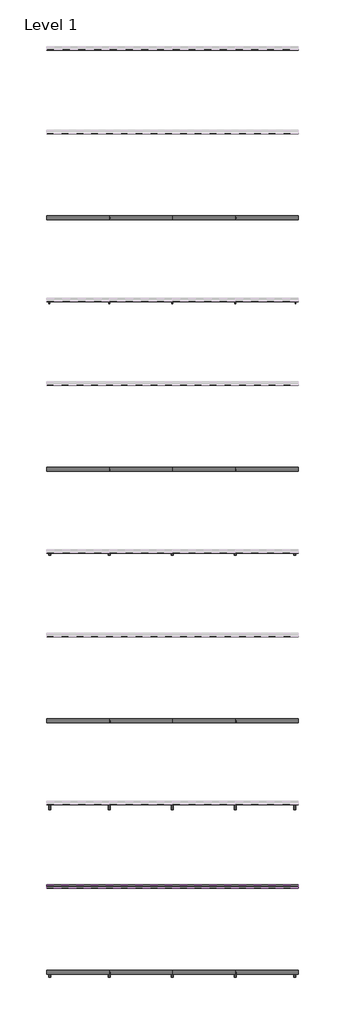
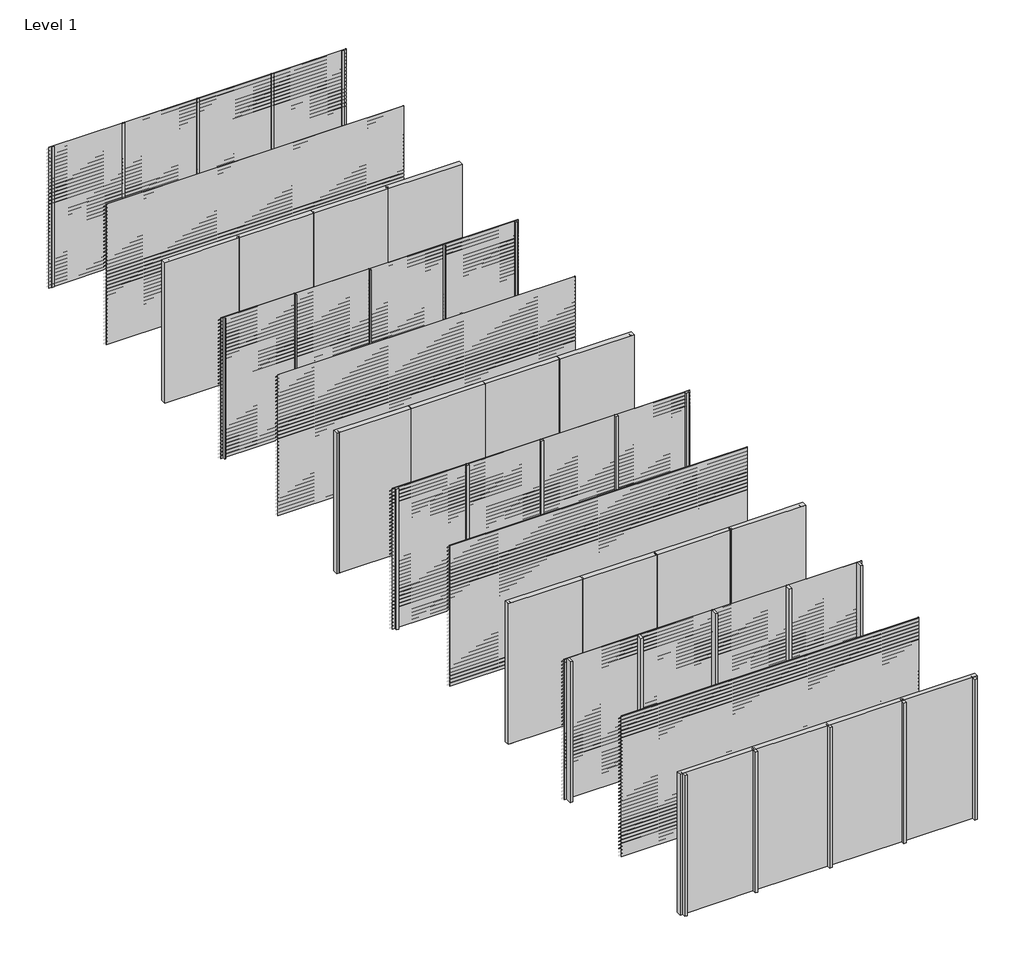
# One storey, part 1 of 9: 40 members, 38 proxies, 36 plates.
"""IFC4 building model written with IfcOpenShell, lengths in millimetres."""

from ifc_helpers import new_model, si_unit, frame, origin, origin_with_axes, place, context, project, spatial, polyline, outline, extrude, transform, mapped, element, save
from components import rectangular_mullion_bbbcbd30, rectangular_mullion_f8d4a220, rectangular_mullion_81aaf6fe, rectangular_mullion_6e08dc26, rectangular_mullion_75c52e10, rectangular_mullion_40295cf1, rectangular_mullion_7f158cb3, rectangular_mullion_66519e13, rectangular_mullion_5829b51c, rectangular_mullion_3b5b8a15, rectangular_mullion_81543344, rectangular_mullion_041a21c4, empty_system_panel_empty_ae16e1e1, empty_system_panel_empty_4cf993bc

model = new_model("IFC4")

# Units and contexts
model_context = context("Model", 3, world=origin())
ifc_project = project(units=[si_unit("LENGTHUNIT", "METRE", prefix="MILLI")], contexts=[model_context])

# Site, building, storey
site = spatial("IfcSite", under=ifc_project)
building = spatial("IfcBuilding", under=site)
storey = spatial("IfcBuildingStorey", under=building, Name="Level 1", Elevation=0.0)

# Proxies
placement = place(None, origin())
element("IfcBuildingElementProxy", 1, Name="Wall Sweeps", at=placement, inside=storey, context=model_context, shape_type="SweptSolid", body=[
    extrude(outline(polyline([(-19995.0, 3000.0), (-19995.0, 2987.7713645), (-19917.0, 2907.0), (-19917.0, 2898.0), (-19997.0, 2980.8424251), (-19997.0, 3000.0), (-19995.0, 3000.0)])), frame((0.0, 0.0, 0.0), z_axis=(1.0, 0.0, 0.0), x_axis=(0.0, 1.0, 0.0)), (0.0, 0.0, 1.0), 6000.0),
])
element("IfcBuildingElementProxy", 2, Name="Wall Sweeps", at=placement, inside=storey, context=model_context, shape_type="SweptSolid", body=[
    extrude(outline(polyline([(-19995.0, 2925.0), (-19995.0, 2912.7713645), (-19917.0, 2832.0), (-19917.0, 2823.0), (-19997.0, 2905.8424251), (-19997.0, 2925.0), (-19995.0, 2925.0)])), frame((0.0, 0.0, 0.0), z_axis=(1.0, 0.0, 0.0), x_axis=(0.0, 1.0, 0.0)), (0.0, 0.0, 1.0), 6000.0),
])
element("IfcBuildingElementProxy", 3, Name="Wall Sweeps", at=placement, inside=storey, context=model_context, shape_type="SweptSolid", body=[
    extrude(outline(polyline([(-19995.0, 2850.0), (-19995.0, 2837.7713645), (-19917.0, 2757.0), (-19917.0, 2748.0), (-19997.0, 2830.8424251), (-19997.0, 2850.0), (-19995.0, 2850.0)])), frame((0.0, 0.0, 0.0), z_axis=(1.0, 0.0, 0.0), x_axis=(0.0, 1.0, 0.0)), (0.0, 0.0, 1.0), 6000.0),
])
element("IfcBuildingElementProxy", 4, Name="Wall Sweeps", at=placement, inside=storey, context=model_context, shape_type="SweptSolid", body=[
    extrude(outline(polyline([(-19995.0, 2775.0), (-19995.0, 2762.7713645), (-19917.0, 2682.0), (-19917.0, 2673.0), (-19997.0, 2755.8424251), (-19997.0, 2775.0), (-19995.0, 2775.0)])), frame((0.0, 0.0, 0.0), z_axis=(1.0, 0.0, 0.0), x_axis=(0.0, 1.0, 0.0)), (0.0, 0.0, 1.0), 6000.0),
])
element("IfcBuildingElementProxy", 5, Name="Wall Sweeps", at=placement, inside=storey, context=model_context, shape_type="SweptSolid", body=[
    extrude(outline(polyline([(-19995.0, 2700.0), (-19995.0, 2687.7713645), (-19917.0, 2607.0), (-19917.0, 2598.0), (-19997.0, 2680.8424251), (-19997.0, 2700.0), (-19995.0, 2700.0)])), frame((0.0, 0.0, 0.0), z_axis=(1.0, 0.0, 0.0), x_axis=(0.0, 1.0, 0.0)), (0.0, 0.0, 1.0), 6000.0),
])
element("IfcBuildingElementProxy", 6, Name="Wall Sweeps", at=placement, inside=storey, context=model_context, shape_type="SweptSolid", body=[
    extrude(outline(polyline([(-19995.0, 2625.0), (-19995.0, 2612.7713645), (-19917.0, 2532.0), (-19917.0, 2523.0), (-19997.0, 2605.8424251), (-19997.0, 2625.0), (-19995.0, 2625.0)])), frame((0.0, 0.0, 0.0), z_axis=(1.0, 0.0, 0.0), x_axis=(0.0, 1.0, 0.0)), (0.0, 0.0, 1.0), 6000.0),
])
element("IfcBuildingElementProxy", 7, Name="Wall Sweeps", at=placement, inside=storey, context=model_context, shape_type="SweptSolid", body=[
    extrude(outline(polyline([(-19995.0, 2550.0), (-19995.0, 2537.7713645), (-19917.0, 2457.0), (-19917.0, 2448.0), (-19997.0, 2530.8424251), (-19997.0, 2550.0), (-19995.0, 2550.0)])), frame((0.0, 0.0, 0.0), z_axis=(1.0, 0.0, 0.0), x_axis=(0.0, 1.0, 0.0)), (0.0, 0.0, 1.0), 6000.0),
])
element("IfcBuildingElementProxy", 8, Name="Wall Sweeps", at=placement, inside=storey, context=model_context, shape_type="SweptSolid", body=[
    extrude(outline(polyline([(-19995.0, 2475.0), (-19995.0, 2462.7713645), (-19917.0, 2382.0), (-19917.0, 2373.0), (-19997.0, 2455.8424251), (-19997.0, 2475.0), (-19995.0, 2475.0)])), frame((0.0, 0.0, 0.0), z_axis=(1.0, 0.0, 0.0), x_axis=(0.0, 1.0, 0.0)), (0.0, 0.0, 1.0), 6000.0),
])
element("IfcBuildingElementProxy", 9, Name="Wall Sweeps", at=placement, inside=storey, context=model_context, shape_type="SweptSolid", body=[
    extrude(outline(polyline([(-19995.0, 2400.0), (-19995.0, 2387.7713645), (-19917.0, 2307.0), (-19917.0, 2298.0), (-19997.0, 2380.8424251), (-19997.0, 2400.0), (-19995.0, 2400.0)])), frame((0.0, 0.0, 0.0), z_axis=(1.0, 0.0, 0.0), x_axis=(0.0, 1.0, 0.0)), (0.0, 0.0, 1.0), 6000.0),
])
element("IfcBuildingElementProxy", 10, Name="Wall Sweeps", at=placement, inside=storey, context=model_context, shape_type="SweptSolid", body=[
    extrude(outline(polyline([(-19995.0, 2325.0), (-19995.0, 2312.7713645), (-19917.0, 2232.0), (-19917.0, 2223.0), (-19997.0, 2305.8424251), (-19997.0, 2325.0), (-19995.0, 2325.0)])), frame((0.0, 0.0, 0.0), z_axis=(1.0, 0.0, 0.0), x_axis=(0.0, 1.0, 0.0)), (0.0, 0.0, 1.0), 6000.0),
])
element("IfcBuildingElementProxy", 11, Name="Wall Sweeps", at=placement, inside=storey, context=model_context, shape_type="SweptSolid", body=[
    extrude(outline(polyline([(-19995.0, 2250.0), (-19995.0, 2237.7713645), (-19917.0, 2157.0), (-19917.0, 2148.0), (-19997.0, 2230.8424251), (-19997.0, 2250.0), (-19995.0, 2250.0)])), frame((0.0, 0.0, 0.0), z_axis=(1.0, 0.0, 0.0), x_axis=(0.0, 1.0, 0.0)), (0.0, 0.0, 1.0), 6000.0),
])
element("IfcBuildingElementProxy", 12, Name="Wall Sweeps", at=placement, inside=storey, context=model_context, shape_type="SweptSolid", body=[
    extrude(outline(polyline([(-19995.0, 2175.0), (-19995.0, 2162.7713645), (-19917.0, 2082.0), (-19917.0, 2073.0), (-19997.0, 2155.8424251), (-19997.0, 2175.0), (-19995.0, 2175.0)])), frame((0.0, 0.0, 0.0), z_axis=(1.0, 0.0, 0.0), x_axis=(0.0, 1.0, 0.0)), (0.0, 0.0, 1.0), 6000.0),
])
element("IfcBuildingElementProxy", 13, Name="Wall Sweeps", at=placement, inside=storey, context=model_context, shape_type="SweptSolid", body=[
    extrude(outline(polyline([(-19995.0, 2100.0), (-19995.0, 2087.7713645), (-19917.0, 2007.0), (-19917.0, 1998.0), (-19997.0, 2080.8424251), (-19997.0, 2100.0), (-19995.0, 2100.0)])), frame((0.0, 0.0, 0.0), z_axis=(1.0, 0.0, 0.0), x_axis=(0.0, 1.0, 0.0)), (0.0, 0.0, 1.0), 6000.0),
])
element("IfcBuildingElementProxy", 14, Name="Wall Sweeps", at=placement, inside=storey, context=model_context, shape_type="SweptSolid", body=[
    extrude(outline(polyline([(-19995.0, 2025.0), (-19995.0, 2012.7713645), (-19917.0, 1932.0), (-19917.0, 1923.0), (-19997.0, 2005.8424251), (-19997.0, 2025.0), (-19995.0, 2025.0)])), frame((0.0, 0.0, 0.0), z_axis=(1.0, 0.0, 0.0), x_axis=(0.0, 1.0, 0.0)), (0.0, 0.0, 1.0), 6000.0),
])
element("IfcBuildingElementProxy", 15, Name="Wall Sweeps", at=placement, inside=storey, context=model_context, shape_type="SweptSolid", body=[
    extrude(outline(polyline([(-19995.0, 1950.0), (-19995.0, 1937.7713645), (-19917.0, 1857.0), (-19917.0, 1848.0), (-19997.0, 1930.8424251), (-19997.0, 1950.0), (-19995.0, 1950.0)])), frame((0.0, 0.0, 0.0), z_axis=(1.0, 0.0, 0.0), x_axis=(0.0, 1.0, 0.0)), (0.0, 0.0, 1.0), 6000.0),
])
element("IfcBuildingElementProxy", 16, Name="Wall Sweeps", at=placement, inside=storey, context=model_context, shape_type="SweptSolid", body=[
    extrude(outline(polyline([(-19995.0, 1875.0), (-19995.0, 1862.7713645), (-19917.0, 1782.0), (-19917.0, 1773.0), (-19997.0, 1855.8424251), (-19997.0, 1875.0), (-19995.0, 1875.0)])), frame((0.0, 0.0, 0.0), z_axis=(1.0, 0.0, 0.0), x_axis=(0.0, 1.0, 0.0)), (0.0, 0.0, 1.0), 6000.0),
])
element("IfcBuildingElementProxy", 17, Name="Wall Sweeps", at=placement, inside=storey, context=model_context, shape_type="SweptSolid", body=[
    extrude(outline(polyline([(-19995.0, 1800.0), (-19995.0, 1787.7713645), (-19917.0, 1707.0), (-19917.0, 1698.0), (-19997.0, 1780.8424251), (-19997.0, 1800.0), (-19995.0, 1800.0)])), frame((0.0, 0.0, 0.0), z_axis=(1.0, 0.0, 0.0), x_axis=(0.0, 1.0, 0.0)), (0.0, 0.0, 1.0), 6000.0),
])
element("IfcBuildingElementProxy", 18, Name="Wall Sweeps", at=placement, inside=storey, context=model_context, shape_type="SweptSolid", body=[
    extrude(outline(polyline([(-19995.0, 1725.0), (-19995.0, 1712.7713645), (-19917.0, 1632.0), (-19917.0, 1623.0), (-19997.0, 1705.8424251), (-19997.0, 1725.0), (-19995.0, 1725.0)])), frame((0.0, 0.0, 0.0), z_axis=(1.0, 0.0, 0.0), x_axis=(0.0, 1.0, 0.0)), (0.0, 0.0, 1.0), 6000.0),
])
element("IfcBuildingElementProxy", 19, Name="Wall Sweeps", at=placement, inside=storey, context=model_context, shape_type="SweptSolid", body=[
    extrude(outline(polyline([(-19995.0, 1650.0), (-19995.0, 1637.7713645), (-19917.0, 1557.0), (-19917.0, 1548.0), (-19997.0, 1630.8424251), (-19997.0, 1650.0), (-19995.0, 1650.0)])), frame((0.0, 0.0, 0.0), z_axis=(1.0, 0.0, 0.0), x_axis=(0.0, 1.0, 0.0)), (0.0, 0.0, 1.0), 6000.0),
])
element("IfcBuildingElementProxy", 20, Name="Wall Sweeps", at=placement, inside=storey, context=model_context, shape_type="SweptSolid", body=[
    extrude(outline(polyline([(-19995.0, 1575.0), (-19995.0, 1562.7713645), (-19917.0, 1482.0), (-19917.0, 1473.0), (-19997.0, 1555.8424251), (-19997.0, 1575.0), (-19995.0, 1575.0)])), frame((0.0, 0.0, 0.0), z_axis=(1.0, 0.0, 0.0), x_axis=(0.0, 1.0, 0.0)), (0.0, 0.0, 1.0), 6000.0),
])
element("IfcBuildingElementProxy", 21, Name="Wall Sweeps", at=placement, inside=storey, context=model_context, shape_type="SweptSolid", body=[
    extrude(outline(polyline([(-19995.0, 1500.0), (-19995.0, 1487.7713645), (-19917.0, 1407.0), (-19917.0, 1398.0), (-19997.0, 1480.8424251), (-19997.0, 1500.0), (-19995.0, 1500.0)])), frame((0.0, 0.0, 0.0), z_axis=(1.0, 0.0, 0.0), x_axis=(0.0, 1.0, 0.0)), (0.0, 0.0, 1.0), 6000.0),
])
element("IfcBuildingElementProxy", 22, Name="Wall Sweeps", at=placement, inside=storey, context=model_context, shape_type="SweptSolid", body=[
    extrude(outline(polyline([(-19995.0, 1425.0), (-19995.0, 1412.7713645), (-19917.0, 1332.0), (-19917.0, 1323.0), (-19997.0, 1405.8424251), (-19997.0, 1425.0), (-19995.0, 1425.0)])), frame((0.0, 0.0, 0.0), z_axis=(1.0, 0.0, 0.0), x_axis=(0.0, 1.0, 0.0)), (0.0, 0.0, 1.0), 6000.0),
])
element("IfcBuildingElementProxy", 23, Name="Wall Sweeps", at=placement, inside=storey, context=model_context, shape_type="SweptSolid", body=[
    extrude(outline(polyline([(-19995.0, 1350.0), (-19995.0, 1337.7713645), (-19917.0, 1257.0), (-19917.0, 1248.0), (-19997.0, 1330.8424251), (-19997.0, 1350.0), (-19995.0, 1350.0)])), frame((0.0, 0.0, 0.0), z_axis=(1.0, 0.0, 0.0), x_axis=(0.0, 1.0, 0.0)), (0.0, 0.0, 1.0), 6000.0),
])
element("IfcBuildingElementProxy", 24, Name="Wall Sweeps", at=placement, inside=storey, context=model_context, shape_type="SweptSolid", body=[
    extrude(outline(polyline([(-19995.0, 1275.0), (-19995.0, 1262.7713645), (-19917.0, 1182.0), (-19917.0, 1173.0), (-19997.0, 1255.8424251), (-19997.0, 1275.0), (-19995.0, 1275.0)])), frame((0.0, 0.0, 0.0), z_axis=(1.0, 0.0, 0.0), x_axis=(0.0, 1.0, 0.0)), (0.0, 0.0, 1.0), 6000.0),
])
element("IfcBuildingElementProxy", 25, Name="Wall Sweeps", at=placement, inside=storey, context=model_context, shape_type="SweptSolid", body=[
    extrude(outline(polyline([(-19995.0, 1200.0), (-19995.0, 1187.7713645), (-19917.0, 1107.0), (-19917.0, 1098.0), (-19997.0, 1180.8424251), (-19997.0, 1200.0), (-19995.0, 1200.0)])), frame((0.0, 0.0, 0.0), z_axis=(1.0, 0.0, 0.0), x_axis=(0.0, 1.0, 0.0)), (0.0, 0.0, 1.0), 6000.0),
])
element("IfcBuildingElementProxy", 26, Name="Wall Sweeps", at=placement, inside=storey, context=model_context, shape_type="SweptSolid", body=[
    extrude(outline(polyline([(-19995.0, 1125.0), (-19995.0, 1112.7713645), (-19917.0, 1032.0), (-19917.0, 1023.0), (-19997.0, 1105.8424251), (-19997.0, 1125.0), (-19995.0, 1125.0)])), frame((0.0, 0.0, 0.0), z_axis=(1.0, 0.0, 0.0), x_axis=(0.0, 1.0, 0.0)), (0.0, 0.0, 1.0), 6000.0),
])
element("IfcBuildingElementProxy", 27, Name="Wall Sweeps", at=placement, inside=storey, context=model_context, shape_type="SweptSolid", body=[
    extrude(outline(polyline([(-19995.0, 1050.0), (-19995.0, 1037.7713645), (-19917.0, 957.0), (-19917.0, 948.0), (-19997.0, 1030.8424251), (-19997.0, 1050.0), (-19995.0, 1050.0)])), frame((0.0, 0.0, 0.0), z_axis=(1.0, 0.0, 0.0), x_axis=(0.0, 1.0, 0.0)), (0.0, 0.0, 1.0), 6000.0),
])
element("IfcBuildingElementProxy", 28, Name="Wall Sweeps", at=placement, inside=storey, context=model_context, shape_type="SweptSolid", body=[
    extrude(outline(polyline([(-19995.0, 975.0), (-19995.0, 962.7713645), (-19917.0, 882.0), (-19917.0, 873.0), (-19997.0, 955.8424251), (-19997.0, 975.0), (-19995.0, 975.0)])), frame((0.0, 0.0, 0.0), z_axis=(1.0, 0.0, 0.0), x_axis=(0.0, 1.0, 0.0)), (0.0, 0.0, 1.0), 6000.0),
])
element("IfcBuildingElementProxy", 29, Name="Wall Sweeps", at=placement, inside=storey, context=model_context, shape_type="SweptSolid", body=[
    extrude(outline(polyline([(-19995.0, 900.0), (-19995.0, 887.7713645), (-19917.0, 807.0), (-19917.0, 798.0), (-19997.0, 880.8424251), (-19997.0, 900.0), (-19995.0, 900.0)])), frame((0.0, 0.0, 0.0), z_axis=(1.0, 0.0, 0.0), x_axis=(0.0, 1.0, 0.0)), (0.0, 0.0, 1.0), 6000.0),
])
element("IfcBuildingElementProxy", 30, Name="Wall Sweeps", at=placement, inside=storey, context=model_context, shape_type="SweptSolid", body=[
    extrude(outline(polyline([(-19995.0, 825.0), (-19995.0, 812.7713645), (-19917.0, 732.0), (-19917.0, 723.0), (-19997.0, 805.8424251), (-19997.0, 825.0), (-19995.0, 825.0)])), frame((0.0, 0.0, 0.0), z_axis=(1.0, 0.0, 0.0), x_axis=(0.0, 1.0, 0.0)), (0.0, 0.0, 1.0), 6000.0),
])
element("IfcBuildingElementProxy", 31, Name="Wall Sweeps", at=placement, inside=storey, context=model_context, shape_type="SweptSolid", body=[
    extrude(outline(polyline([(-19995.0, 750.0), (-19995.0, 737.7713645), (-19917.0, 657.0), (-19917.0, 648.0), (-19997.0, 730.8424251), (-19997.0, 750.0), (-19995.0, 750.0)])), frame((0.0, 0.0, 0.0), z_axis=(1.0, 0.0, 0.0), x_axis=(0.0, 1.0, 0.0)), (0.0, 0.0, 1.0), 6000.0),
])
element("IfcBuildingElementProxy", 32, Name="Wall Sweeps", at=placement, inside=storey, context=model_context, shape_type="SweptSolid", body=[
    extrude(outline(polyline([(-19995.0, 675.0), (-19995.0, 662.7713645), (-19917.0, 582.0), (-19917.0, 573.0), (-19997.0, 655.8424251), (-19997.0, 675.0), (-19995.0, 675.0)])), frame((0.0, 0.0, 0.0), z_axis=(1.0, 0.0, 0.0), x_axis=(0.0, 1.0, 0.0)), (0.0, 0.0, 1.0), 6000.0),
])
element("IfcBuildingElementProxy", 33, Name="Wall Sweeps", at=placement, inside=storey, context=model_context, shape_type="SweptSolid", body=[
    extrude(outline(polyline([(-19995.0, 600.0), (-19995.0, 587.7713645), (-19917.0, 507.0), (-19917.0, 498.0), (-19997.0, 580.8424251), (-19997.0, 600.0), (-19995.0, 600.0)])), frame((0.0, 0.0, 0.0), z_axis=(1.0, 0.0, 0.0), x_axis=(0.0, 1.0, 0.0)), (0.0, 0.0, 1.0), 6000.0),
])
element("IfcBuildingElementProxy", 34, Name="Wall Sweeps", at=placement, inside=storey, context=model_context, shape_type="SweptSolid", body=[
    extrude(outline(polyline([(-19995.0, 525.0), (-19995.0, 512.7713645), (-19917.0, 432.0), (-19917.0, 423.0), (-19997.0, 505.8424251), (-19997.0, 525.0), (-19995.0, 525.0)])), frame((0.0, 0.0, 0.0), z_axis=(1.0, 0.0, 0.0), x_axis=(0.0, 1.0, 0.0)), (0.0, 0.0, 1.0), 6000.0),
])
element("IfcBuildingElementProxy", 35, Name="Wall Sweeps", at=placement, inside=storey, context=model_context, shape_type="SweptSolid", body=[
    extrude(outline(polyline([(-19995.0, 450.0), (-19995.0, 437.7713645), (-19917.0, 357.0), (-19917.0, 348.0), (-19997.0, 430.8424251), (-19997.0, 450.0), (-19995.0, 450.0)])), frame((0.0, 0.0, 0.0), z_axis=(1.0, 0.0, 0.0), x_axis=(0.0, 1.0, 0.0)), (0.0, 0.0, 1.0), 6000.0),
])
element("IfcBuildingElementProxy", 36, Name="Wall Sweeps", at=placement, inside=storey, context=model_context, shape_type="SweptSolid", body=[
    extrude(outline(polyline([(-19995.0, 375.0), (-19995.0, 362.7713645), (-19917.0, 282.0), (-19917.0, 273.0), (-19997.0, 355.8424251), (-19997.0, 375.0), (-19995.0, 375.0)])), frame((0.0, 0.0, 0.0), z_axis=(1.0, 0.0, 0.0), x_axis=(0.0, 1.0, 0.0)), (0.0, 0.0, 1.0), 6000.0),
])
element("IfcBuildingElementProxy", 37, Name="Wall Sweeps", at=placement, inside=storey, context=model_context, shape_type="SweptSolid", body=[
    extrude(outline(polyline([(-19995.0, 300.0), (-19995.0, 287.7713645), (-19917.0, 207.0), (-19917.0, 198.0), (-19997.0, 280.8424251), (-19997.0, 300.0), (-19995.0, 300.0)])), frame((0.0, 0.0, 0.0), z_axis=(1.0, 0.0, 0.0), x_axis=(0.0, 1.0, 0.0)), (0.0, 0.0, 1.0), 6000.0),
])
element("IfcBuildingElementProxy", 38, Name="Wall Sweeps", at=placement, inside=storey, context=model_context, shape_type="SweptSolid", body=[
    extrude(outline(polyline([(-19995.0, 225.0), (-19995.0, 212.7713645), (-19917.0, 132.0), (-19917.0, 123.0), (-19997.0, 205.8424251), (-19997.0, 225.0), (-19995.0, 225.0)])), frame((0.0, 0.0, 0.0), z_axis=(1.0, 0.0, 0.0), x_axis=(0.0, 1.0, 0.0)), (0.0, 0.0, 1.0), 6000.0),
])

# Members
rectangular_mullion_shape = rectangular_mullion_bbbcbd30(model_context)
element("IfcMember", 39, ObjectType="Rectangular Mullion : RSen_21_CWM_support profile - 50x12 - left_gen_duco projects", at=placement, inside=storey, context=model_context, shape_type="MappedRepresentation", body=[
    mapped(rectangular_mullion_shape, transform((0.0, 0.0, 0.0), x_axis=(-1.0, 0.0, 0.0), y_axis=(0.0, 1.0, 0.0), z_axis=(0.0, 0.0, -1.0))),
])
element("IfcMember", 40, ObjectType="Rectangular Mullion : RSen_21_CWM_support profile - 50x12 - left_gen_duco projects", at=placement, inside=storey, context=model_context, shape_type="MappedRepresentation", body=[
    mapped(rectangular_mullion_shape, transform((0.0, -4000.0, 0.0), x_axis=(-1.0, 0.0, 0.0), y_axis=(0.0, 1.0, 0.0), z_axis=(0.0, 0.0, -1.0))),
])
rectangular_mullion_2_shape = rectangular_mullion_f8d4a220(model_context)
element("IfcMember", 41, ObjectType="Rectangular Mullion : RSen_21_CWM_support profile - 50x12 - right_gen_duco projects", at=placement, inside=storey, context=model_context, shape_type="MappedRepresentation", body=[
    mapped(rectangular_mullion_2_shape, transform((6000.0, 0.0, 3000.0), x_axis=(1.0, 0.0, 0.0), y_axis=(0.0, 1.0, 0.0), z_axis=(0.0, 0.0, 1.0))),
])
element("IfcMember", 42, ObjectType="Rectangular Mullion : RSen_21_CWM_support profile - 50x12 - right_gen_duco projects", at=placement, inside=storey, context=model_context, shape_type="MappedRepresentation", body=[
    mapped(rectangular_mullion_2_shape, transform((6000.0, -4000.0, 3000.0), x_axis=(1.0, 0.0, 0.0), y_axis=(0.0, 1.0, 0.0), z_axis=(0.0, 0.0, 1.0))),
])
rectangular_mullion_3_shape = rectangular_mullion_81aaf6fe(model_context)
element("IfcMember", 43, ObjectType="Rectangular Mullion : RSen_21_CWM_support profile - 21x50 Multi - left_gen_duco projects", at=placement, inside=storey, context=model_context, shape_type="MappedRepresentation", body=[
    mapped(rectangular_mullion_3_shape, transform((0.0, -6000.0, 0.0), x_axis=(-1.0, 0.0, 0.0), y_axis=(0.0, 1.0, 0.0), z_axis=(0.0, 0.0, -1.0))),
])
element("IfcMember", 44, ObjectType="Rectangular Mullion : RSen_21_CWM_support profile - 21x50 Multi - left_gen_duco projects", at=placement, inside=storey, context=model_context, shape_type="MappedRepresentation", body=[
    mapped(rectangular_mullion_3_shape, transform((0.0, -10000.0, 0.0), x_axis=(-1.0, 0.0, 0.0), y_axis=(0.0, 1.0, 0.0), z_axis=(0.0, 0.0, -1.0))),
])
rectangular_mullion_4_shape = rectangular_mullion_6e08dc26(model_context)
element("IfcMember", 45, ObjectType="Rectangular Mullion : RSen_21_CWM_support profile - 21x50 Multi - right_gen_duco projects", at=placement, inside=storey, context=model_context, shape_type="MappedRepresentation", body=[
    mapped(rectangular_mullion_4_shape, transform((6000.0, -6000.0, 3000.0), x_axis=(1.0, 0.0, 0.0), y_axis=(0.0, 1.0, 0.0), z_axis=(0.0, 0.0, 1.0))),
])
element("IfcMember", 46, ObjectType="Rectangular Mullion : RSen_21_CWM_support profile - 21x50 Multi - right_gen_duco projects", at=placement, inside=storey, context=model_context, shape_type="MappedRepresentation", body=[
    mapped(rectangular_mullion_4_shape, transform((6000.0, -10000.0, 3000.0), x_axis=(1.0, 0.0, 0.0), y_axis=(0.0, 1.0, 0.0), z_axis=(0.0, 0.0, 1.0))),
])
rectangular_mullion_5_shape = rectangular_mullion_75c52e10(model_context)
element("IfcMember", 47, ObjectType="Rectangular Mullion : RSen_21_CWM_support profile - 50x50 - left_gen_duco projects", at=placement, inside=storey, context=model_context, shape_type="MappedRepresentation", body=[
    mapped(rectangular_mullion_5_shape, transform((0.0, -12000.0, 0.0), x_axis=(-1.0, 0.0, 0.0), y_axis=(0.0, 1.0, 0.0), z_axis=(0.0, 0.0, -1.0))),
])
element("IfcMember", 48, ObjectType="Rectangular Mullion : RSen_21_CWM_support profile - 50x50 - left_gen_duco projects", at=placement, inside=storey, context=model_context, shape_type="MappedRepresentation", body=[
    mapped(rectangular_mullion_5_shape, transform((0.0, -16000.0, 0.0), x_axis=(-1.0, 0.0, 0.0), y_axis=(0.0, 1.0, 0.0), z_axis=(0.0, 0.0, -1.0))),
])
rectangular_mullion_6_shape = rectangular_mullion_40295cf1(model_context)
element("IfcMember", 49, ObjectType="Rectangular Mullion : RSen_21_CWM_support profile - 50x50 - right_gen_duco projects", at=placement, inside=storey, context=model_context, shape_type="MappedRepresentation", body=[
    mapped(rectangular_mullion_6_shape, transform((6000.0, -12000.0, 3000.0), x_axis=(1.0, 0.0, 0.0), y_axis=(0.0, 1.0, 0.0), z_axis=(0.0, 0.0, 1.0))),
])
element("IfcMember", 50, ObjectType="Rectangular Mullion : RSen_21_CWM_support profile - 50x50 - right_gen_duco projects", at=placement, inside=storey, context=model_context, shape_type="MappedRepresentation", body=[
    mapped(rectangular_mullion_6_shape, transform((6000.0, -16000.0, 3000.0), x_axis=(1.0, 0.0, 0.0), y_axis=(0.0, 1.0, 0.0), z_axis=(0.0, 0.0, 1.0))),
])
rectangular_mullion_7_shape = rectangular_mullion_7f158cb3(model_context)
element("IfcMember", 51, ObjectType="Rectangular Mullion : RSen_21_CWM_support profile - 50x12_gen_duco projects", at=placement, inside=storey, context=model_context, shape_type="MappedRepresentation", body=[
    mapped(rectangular_mullion_7_shape, transform((4500.0, 0.0, 0.0), x_axis=(-1.0, 0.0, 0.0), y_axis=(0.0, 1.0, 0.0), z_axis=(0.0, 0.0, -1.0))),
])
element("IfcMember", 52, ObjectType="Rectangular Mullion : RSen_21_CWM_support profile - 50x12_gen_duco projects", at=placement, inside=storey, context=model_context, shape_type="MappedRepresentation", body=[
    mapped(rectangular_mullion_7_shape, transform((3000.0, 0.0, 0.0), x_axis=(-1.0, 0.0, 0.0), y_axis=(0.0, 1.0, 0.0), z_axis=(0.0, 0.0, -1.0))),
])
element("IfcMember", 53, ObjectType="Rectangular Mullion : RSen_21_CWM_support profile - 50x12_gen_duco projects", at=placement, inside=storey, context=model_context, shape_type="MappedRepresentation", body=[
    mapped(rectangular_mullion_7_shape, transform((1500.0, 0.0, 0.0), x_axis=(-1.0, 0.0, 0.0), y_axis=(0.0, 1.0, 0.0), z_axis=(0.0, 0.0, -1.0))),
])
element("IfcMember", 54, ObjectType="Rectangular Mullion : RSen_21_CWM_support profile - 50x12_gen_duco projects", at=placement, inside=storey, context=model_context, shape_type="MappedRepresentation", body=[
    mapped(rectangular_mullion_7_shape, transform((4500.0, -4000.0, 0.0), x_axis=(-1.0, 0.0, 0.0), y_axis=(0.0, 1.0, 0.0), z_axis=(0.0, 0.0, -1.0))),
])
element("IfcMember", 55, ObjectType="Rectangular Mullion : RSen_21_CWM_support profile - 50x12_gen_duco projects", at=placement, inside=storey, context=model_context, shape_type="MappedRepresentation", body=[
    mapped(rectangular_mullion_7_shape, transform((3000.0, -4000.0, 0.0), x_axis=(-1.0, 0.0, 0.0), y_axis=(0.0, 1.0, 0.0), z_axis=(0.0, 0.0, -1.0))),
])
element("IfcMember", 56, ObjectType="Rectangular Mullion : RSen_21_CWM_support profile - 50x12_gen_duco projects", at=placement, inside=storey, context=model_context, shape_type="MappedRepresentation", body=[
    mapped(rectangular_mullion_7_shape, transform((1500.0, -4000.0, 0.0), x_axis=(-1.0, 0.0, 0.0), y_axis=(0.0, 1.0, 0.0), z_axis=(0.0, 0.0, -1.0))),
])
rectangular_mullion_8_shape = rectangular_mullion_66519e13(model_context)
element("IfcMember", 57, ObjectType="Rectangular Mullion : RSen_21_CWM_support profile - 21x50 Multi_gen_duco projects", at=placement, inside=storey, context=model_context, shape_type="MappedRepresentation", body=[
    mapped(rectangular_mullion_8_shape, transform((4500.0, -6000.0, 0.0), x_axis=(-1.0, 0.0, 0.0), y_axis=(0.0, 1.0, 0.0), z_axis=(0.0, 0.0, -1.0))),
])
element("IfcMember", 58, ObjectType="Rectangular Mullion : RSen_21_CWM_support profile - 21x50 Multi_gen_duco projects", at=placement, inside=storey, context=model_context, shape_type="MappedRepresentation", body=[
    mapped(rectangular_mullion_8_shape, transform((3000.0, -6000.0, 0.0), x_axis=(-1.0, 0.0, 0.0), y_axis=(0.0, 1.0, 0.0), z_axis=(0.0, 0.0, -1.0))),
])
element("IfcMember", 59, ObjectType="Rectangular Mullion : RSen_21_CWM_support profile - 21x50 Multi_gen_duco projects", at=placement, inside=storey, context=model_context, shape_type="MappedRepresentation", body=[
    mapped(rectangular_mullion_8_shape, transform((1500.0, -6000.0, 0.0), x_axis=(-1.0, 0.0, 0.0), y_axis=(0.0, 1.0, 0.0), z_axis=(0.0, 0.0, -1.0))),
])
element("IfcMember", 60, ObjectType="Rectangular Mullion : RSen_21_CWM_support profile - 21x50 Multi_gen_duco projects", at=placement, inside=storey, context=model_context, shape_type="MappedRepresentation", body=[
    mapped(rectangular_mullion_8_shape, transform((4500.0, -10000.0, 0.0), x_axis=(-1.0, 0.0, 0.0), y_axis=(0.0, 1.0, 0.0), z_axis=(0.0, 0.0, -1.0))),
])
element("IfcMember", 61, ObjectType="Rectangular Mullion : RSen_21_CWM_support profile - 21x50 Multi_gen_duco projects", at=placement, inside=storey, context=model_context, shape_type="MappedRepresentation", body=[
    mapped(rectangular_mullion_8_shape, transform((3000.0, -10000.0, 0.0), x_axis=(-1.0, 0.0, 0.0), y_axis=(0.0, 1.0, 0.0), z_axis=(0.0, 0.0, -1.0))),
])
element("IfcMember", 62, ObjectType="Rectangular Mullion : RSen_21_CWM_support profile - 21x50 Multi_gen_duco projects", at=placement, inside=storey, context=model_context, shape_type="MappedRepresentation", body=[
    mapped(rectangular_mullion_8_shape, transform((1500.0, -10000.0, 0.0), x_axis=(-1.0, 0.0, 0.0), y_axis=(0.0, 1.0, 0.0), z_axis=(0.0, 0.0, -1.0))),
])
rectangular_mullion_9_shape = rectangular_mullion_5829b51c(model_context)
element("IfcMember", 63, ObjectType="Rectangular Mullion : RSen_21_CWM_support profile - 50x50_gen_duco projects", at=placement, inside=storey, context=model_context, shape_type="MappedRepresentation", body=[
    mapped(rectangular_mullion_9_shape, transform((4500.0, -12000.0, 0.0), x_axis=(-1.0, 0.0, 0.0), y_axis=(0.0, 1.0, 0.0), z_axis=(0.0, 0.0, -1.0))),
])
element("IfcMember", 64, ObjectType="Rectangular Mullion : RSen_21_CWM_support profile - 50x50_gen_duco projects", at=placement, inside=storey, context=model_context, shape_type="MappedRepresentation", body=[
    mapped(rectangular_mullion_9_shape, transform((3000.0, -12000.0, 0.0), x_axis=(-1.0, 0.0, 0.0), y_axis=(0.0, 1.0, 0.0), z_axis=(0.0, 0.0, -1.0))),
])
element("IfcMember", 65, ObjectType="Rectangular Mullion : RSen_21_CWM_support profile - 50x50_gen_duco projects", at=placement, inside=storey, context=model_context, shape_type="MappedRepresentation", body=[
    mapped(rectangular_mullion_9_shape, transform((1500.0, -12000.0, 0.0), x_axis=(-1.0, 0.0, 0.0), y_axis=(0.0, 1.0, 0.0), z_axis=(0.0, 0.0, -1.0))),
])
element("IfcMember", 66, ObjectType="Rectangular Mullion : RSen_21_CWM_support profile - 50x50_gen_duco projects", at=placement, inside=storey, context=model_context, shape_type="MappedRepresentation", body=[
    mapped(rectangular_mullion_9_shape, transform((4500.0, -16000.0, 0.0), x_axis=(-1.0, 0.0, 0.0), y_axis=(0.0, 1.0, 0.0), z_axis=(0.0, 0.0, -1.0))),
])
element("IfcMember", 67, ObjectType="Rectangular Mullion : RSen_21_CWM_support profile - 50x50_gen_duco projects", at=placement, inside=storey, context=model_context, shape_type="MappedRepresentation", body=[
    mapped(rectangular_mullion_9_shape, transform((3000.0, -16000.0, 0.0), x_axis=(-1.0, 0.0, 0.0), y_axis=(0.0, 1.0, 0.0), z_axis=(0.0, 0.0, -1.0))),
])
element("IfcMember", 68, ObjectType="Rectangular Mullion : RSen_21_CWM_support profile - 50x50_gen_duco projects", at=placement, inside=storey, context=model_context, shape_type="MappedRepresentation", body=[
    mapped(rectangular_mullion_9_shape, transform((1500.0, -16000.0, 0.0), x_axis=(-1.0, 0.0, 0.0), y_axis=(0.0, 1.0, 0.0), z_axis=(0.0, 0.0, -1.0))),
])
rectangular_mullion_10_shape = rectangular_mullion_3b5b8a15(model_context)
element("IfcMember", 69, ObjectType="Rectangular Mullion : RSen_21_CWM_support profile - 50x125_gen_duco projects", at=placement, inside=storey, context=model_context, shape_type="MappedRepresentation", body=[
    mapped(rectangular_mullion_10_shape, transform((1500.0000002, -18000.0, 0.0), x_axis=(1.0, 0.0, 0.0), y_axis=(0.0, -1.0, 0.0), z_axis=(0.0, 0.0, -1.0))),
])
element("IfcMember", 70, ObjectType="Rectangular Mullion : RSen_21_CWM_support profile - 50x125_gen_duco projects", at=placement, inside=storey, context=model_context, shape_type="MappedRepresentation", body=[
    mapped(rectangular_mullion_10_shape, transform((3000.0, -18000.0, 0.0), x_axis=(1.0, 0.0, 0.0), y_axis=(0.0, -1.0, 0.0), z_axis=(0.0, 0.0, -1.0))),
])
element("IfcMember", 71, ObjectType="Rectangular Mullion : RSen_21_CWM_support profile - 50x125_gen_duco projects", at=placement, inside=storey, context=model_context, shape_type="MappedRepresentation", body=[
    mapped(rectangular_mullion_10_shape, transform((4499.9999998, -18000.0, 0.0), x_axis=(1.0, 0.0, 0.0), y_axis=(0.0, -1.0, 0.0), z_axis=(0.0, 0.0, -1.0))),
])
element("IfcMember", 72, ObjectType="Rectangular Mullion : RSen_21_CWM_support profile - 50x125_gen_duco projects", at=placement, inside=storey, context=model_context, shape_type="MappedRepresentation", body=[
    mapped(rectangular_mullion_10_shape, transform((1500.0000002, -22000.0, 0.0), x_axis=(1.0, 0.0, 0.0), y_axis=(0.0, -1.0, 0.0), z_axis=(0.0, 0.0, -1.0))),
])
element("IfcMember", 73, ObjectType="Rectangular Mullion : RSen_21_CWM_support profile - 50x125_gen_duco projects", at=placement, inside=storey, context=model_context, shape_type="MappedRepresentation", body=[
    mapped(rectangular_mullion_10_shape, transform((3000.0, -22000.0, 0.0), x_axis=(1.0, 0.0, 0.0), y_axis=(0.0, -1.0, 0.0), z_axis=(0.0, 0.0, -1.0))),
])
element("IfcMember", 74, ObjectType="Rectangular Mullion : RSen_21_CWM_support profile - 50x125_gen_duco projects", at=placement, inside=storey, context=model_context, shape_type="MappedRepresentation", body=[
    mapped(rectangular_mullion_10_shape, transform((4499.9999998, -22000.0, 0.0), x_axis=(1.0, 0.0, 0.0), y_axis=(0.0, -1.0, 0.0), z_axis=(0.0, 0.0, -1.0))),
])
rectangular_mullion_11_shape = rectangular_mullion_81543344(model_context)
element("IfcMember", 75, ObjectType="Rectangular Mullion : RSen_21_CWM_support profile - 50x125 - left_gen_duco projects", at=placement, inside=storey, context=model_context, shape_type="MappedRepresentation", body=[
    mapped(rectangular_mullion_11_shape, transform((6000.0, -18000.0, 0.0), x_axis=(1.0, 0.0, 0.0), y_axis=(0.0, -1.0, 0.0), z_axis=(0.0, 0.0, -1.0))),
])
element("IfcMember", 76, ObjectType="Rectangular Mullion : RSen_21_CWM_support profile - 50x125 - left_gen_duco projects", at=placement, inside=storey, context=model_context, shape_type="MappedRepresentation", body=[
    mapped(rectangular_mullion_11_shape, transform((6000.0, -22000.0, 0.0), x_axis=(1.0, 0.0, 0.0), y_axis=(0.0, -1.0, 0.0), z_axis=(0.0, 0.0, -1.0))),
])
rectangular_mullion_12_shape = rectangular_mullion_041a21c4(model_context)
element("IfcMember", 77, ObjectType="Rectangular Mullion : RSen_21_CWM_support profile - 50x125 - right_gen_duco projects", at=placement, inside=storey, context=model_context, shape_type="MappedRepresentation", body=[
    mapped(rectangular_mullion_12_shape, transform((0.0, -18000.0, 3000.0), x_axis=(-1.0, 0.0, 0.0), y_axis=(0.0, -1.0, 0.0), z_axis=(0.0, 0.0, 1.0))),
])
element("IfcMember", 78, ObjectType="Rectangular Mullion : RSen_21_CWM_support profile - 50x125 - right_gen_duco projects", at=placement, inside=storey, context=model_context, shape_type="MappedRepresentation", body=[
    mapped(rectangular_mullion_12_shape, transform((0.0, -22000.0, 3000.0), x_axis=(-1.0, 0.0, 0.0), y_axis=(0.0, -1.0, 0.0), z_axis=(0.0, 0.0, 1.0))),
])

# Plates
element("IfcPlate", 79, ObjectType="RSen_21_WA_louvre blade classic W 80HP_gen_duco projects", at=placement, inside=storey, context=model_context, shape_type="SweptSolid", body=[
    extrude(outline(polyline([(0.0, 1.0), (1500.0, 1.0), (1500.0, -1.0), (0.0, -1.0), (0.0, 1.0)])), origin_with_axes(), (0.0, 0.0, 1.0), 3000.0),
])
element("IfcPlate", 80, ObjectType="RSen_21_WA_louvre blade classic W 80HP_gen_duco projects", at=placement, inside=storey, context=model_context, shape_type="SweptSolid", body=[
    extrude(outline(polyline([(1500.0, 1.0), (3000.0, 1.0), (3000.0, -1.0), (1500.0, -1.0), (1500.0, 1.0)])), origin_with_axes(), (0.0, 0.0, 1.0), 3000.0),
])
element("IfcPlate", 81, ObjectType="RSen_21_WA_louvre blade classic W 80HP_gen_duco projects", at=placement, inside=storey, context=model_context, shape_type="SweptSolid", body=[
    extrude(outline(polyline([(3000.0, 1.0), (4500.0, 1.0), (4500.0, -1.0), (3000.0, -1.0), (3000.0, 1.0)])), origin_with_axes(), (0.0, 0.0, 1.0), 3000.0),
])
element("IfcPlate", 82, ObjectType="RSen_21_WA_louvre blade classic W 80HP_gen_duco projects", at=placement, inside=storey, context=model_context, shape_type="SweptSolid", body=[
    extrude(outline(polyline([(4500.0, 1.0), (6000.0, 1.0), (6000.0, -1.0), (4500.0, -1.0), (4500.0, 1.0)])), origin_with_axes(), (0.0, 0.0, 1.0), 3000.0),
])
element("IfcPlate", 83, ObjectType="RSen_21_WA_louvre blade classic W 80HP_gen_duco projects", at=placement, inside=storey, context=model_context, shape_type="SweptSolid", body=[
    extrude(outline(polyline([(0.0, -1999.0), (6000.0, -1999.0), (6000.0, -2001.0), (0.0, -2001.0), (0.0, -1999.0)])), origin_with_axes(), (0.0, 0.0, 1.0), 3000.0),
])
element("IfcPlate", 84, ObjectType="RSen_21_WA_louvre blade classic W 80HP_gen_duco projects", at=placement, inside=storey, context=model_context, shape_type="SweptSolid", body=[
    extrude(outline(polyline([(0.0, -5999.0), (1500.0, -5999.0), (1500.0, -6001.0), (0.0, -6001.0), (0.0, -5999.0)])), origin_with_axes(), (0.0, 0.0, 1.0), 3000.0),
])
element("IfcPlate", 85, ObjectType="RSen_21_WA_louvre blade classic W 80HP_gen_duco projects", at=placement, inside=storey, context=model_context, shape_type="SweptSolid", body=[
    extrude(outline(polyline([(1500.0, -5999.0), (3000.0, -5999.0), (3000.0, -6001.0), (1500.0, -6001.0), (1500.0, -5999.0)])), origin_with_axes(), (0.0, 0.0, 1.0), 3000.0),
])
element("IfcPlate", 86, ObjectType="RSen_21_WA_louvre blade classic W 80HP_gen_duco projects", at=placement, inside=storey, context=model_context, shape_type="SweptSolid", body=[
    extrude(outline(polyline([(3000.0, -5999.0), (4500.0, -5999.0), (4500.0, -6001.0), (3000.0, -6001.0), (3000.0, -5999.0)])), origin_with_axes(), (0.0, 0.0, 1.0), 3000.0),
])
element("IfcPlate", 87, ObjectType="RSen_21_WA_louvre blade classic W 80HP_gen_duco projects", at=placement, inside=storey, context=model_context, shape_type="SweptSolid", body=[
    extrude(outline(polyline([(4500.0, -5999.0), (6000.0, -5999.0), (6000.0, -6001.0), (4500.0, -6001.0), (4500.0, -5999.0)])), origin_with_axes(), (0.0, 0.0, 1.0), 3000.0),
])
element("IfcPlate", 88, ObjectType="RSen_21_WA_louvre blade classic W 80HP_gen_duco projects", at=placement, inside=storey, context=model_context, shape_type="SweptSolid", body=[
    extrude(outline(polyline([(0.0, -7999.0), (6000.0, -7999.0), (6000.0, -8001.0), (0.0, -8001.0), (0.0, -7999.0)])), origin_with_axes(), (0.0, 0.0, 1.0), 3000.0),
])
element("IfcPlate", 89, ObjectType="RSen_21_WA_louvre blade classic W 80HP_gen_duco projects", at=placement, inside=storey, context=model_context, shape_type="SweptSolid", body=[
    extrude(outline(polyline([(0.0, -11999.0), (1500.0, -11999.0), (1500.0, -12001.0), (0.0, -12001.0), (0.0, -11999.0)])), origin_with_axes(), (0.0, 0.0, 1.0), 3000.0),
])
element("IfcPlate", 90, ObjectType="RSen_21_WA_louvre blade classic W 80HP_gen_duco projects", at=placement, inside=storey, context=model_context, shape_type="SweptSolid", body=[
    extrude(outline(polyline([(1500.0, -11999.0), (3000.0, -11999.0), (3000.0, -12001.0), (1500.0, -12001.0), (1500.0, -11999.0)])), origin_with_axes(), (0.0, 0.0, 1.0), 3000.0),
])
element("IfcPlate", 91, ObjectType="RSen_21_WA_louvre blade classic W 80HP_gen_duco projects", at=placement, inside=storey, context=model_context, shape_type="SweptSolid", body=[
    extrude(outline(polyline([(3000.0, -11999.0), (4500.0, -11999.0), (4500.0, -12001.0), (3000.0, -12001.0), (3000.0, -11999.0)])), origin_with_axes(), (0.0, 0.0, 1.0), 3000.0),
])
element("IfcPlate", 92, ObjectType="RSen_21_WA_louvre blade classic W 80HP_gen_duco projects", at=placement, inside=storey, context=model_context, shape_type="SweptSolid", body=[
    extrude(outline(polyline([(4500.0, -11999.0), (6000.0, -11999.0), (6000.0, -12001.0), (4500.0, -12001.0), (4500.0, -11999.0)])), origin_with_axes(), (0.0, 0.0, 1.0), 3000.0),
])
element("IfcPlate", 93, ObjectType="RSen_21_WA_louvre blade classic W 80HP_gen_duco projects", at=placement, inside=storey, context=model_context, shape_type="SweptSolid", body=[
    extrude(outline(polyline([(0.0, -13999.0), (6000.0, -13999.0), (6000.0, -14001.0), (0.0, -14001.0), (0.0, -13999.0)])), origin_with_axes(), (0.0, 0.0, 1.0), 3000.0),
])
element("IfcPlate", 94, ObjectType="RSen_21_WA_louvre blade classic W 80HP_gen_duco projects", at=placement, inside=storey, context=model_context, shape_type="SweptSolid", body=[
    extrude(outline(polyline([(6000.0, -18001.0), (4499.9999998, -18001.0), (4499.9999998, -17999.0), (6000.0, -17999.0), (6000.0, -18001.0)])), origin_with_axes(), (0.0, 0.0, 1.0), 3000.0),
])
element("IfcPlate", 95, ObjectType="RSen_21_WA_louvre blade classic W 80HP_gen_duco projects", at=placement, inside=storey, context=model_context, shape_type="SweptSolid", body=[
    extrude(outline(polyline([(4499.9999998, -18001.0), (3000.0, -18001.0), (3000.0, -17999.0), (4499.9999998, -17999.0), (4499.9999998, -18001.0)])), origin_with_axes(), (0.0, 0.0, 1.0), 3000.0),
])
element("IfcPlate", 96, ObjectType="RSen_21_WA_louvre blade classic W 80HP_gen_duco projects", at=placement, inside=storey, context=model_context, shape_type="SweptSolid", body=[
    extrude(outline(polyline([(3000.0, -18001.0), (1500.0000002, -18001.0), (1500.0000002, -17999.0), (3000.0, -17999.0), (3000.0, -18001.0)])), origin_with_axes(), (0.0, 0.0, 1.0), 3000.0),
])
element("IfcPlate", 97, ObjectType="RSen_21_WA_louvre blade classic W 80HP_gen_duco projects", at=placement, inside=storey, context=model_context, shape_type="SweptSolid", body=[
    extrude(outline(polyline([(1500.0000002, -18001.0), (0.0, -18001.0), (0.0, -17999.0), (1500.0000002, -17999.0), (1500.0000002, -18001.0)])), origin_with_axes(), (0.0, 0.0, 1.0), 3000.0),
])
element("IfcPlate", 98, ObjectType="RSen_21_WA_louvre blade classic W 80HP_gen_duco projects", at=placement, inside=storey, context=model_context, shape_type="SweptSolid", body=[
    extrude(outline(polyline([(6000.0, -20001.0), (0.0, -20001.0), (0.0, -19999.0), (6000.0, -19999.0), (6000.0, -20001.0)])), origin_with_axes(), (0.0, 0.0, 1.0), 3000.0),
])
empty_system_panel_empty_shape = empty_system_panel_empty_ae16e1e1(model_context)
element("IfcPlate", 99, ObjectType="Empty System Panel : Empty", at=placement, inside=storey, context=model_context, shape_type="MappedRepresentation", body=[
    mapped(empty_system_panel_empty_shape, transform((5250.0, -4000.0, 0.0), x_axis=(-1.0, 0.0, 0.0), y_axis=(0.0, -1.0, 0.0), z_axis=(0.0, 0.0, 1.0))),
])
element("IfcPlate", 100, ObjectType="Empty System Panel : Empty", at=placement, inside=storey, context=model_context, shape_type="MappedRepresentation", body=[
    mapped(empty_system_panel_empty_shape, transform((5250.0, -10000.0, 0.0), x_axis=(-1.0, 0.0, 0.0), y_axis=(0.0, -1.0, 0.0), z_axis=(0.0, 0.0, 1.0))),
])
element("IfcPlate", 101, ObjectType="Empty System Panel : Empty", at=placement, inside=storey, context=model_context, shape_type="MappedRepresentation", body=[
    mapped(empty_system_panel_empty_shape, transform((5250.0, -16000.0, 0.0), x_axis=(-1.0, 0.0, 0.0), y_axis=(0.0, -1.0, 0.0), z_axis=(0.0, 0.0, 1.0))),
])
element("IfcPlate", 102, ObjectType="Empty System Panel : Empty", at=placement, inside=storey, context=model_context, shape_type="MappedRepresentation", body=[
    mapped(empty_system_panel_empty_shape, transform((3750.0, -4000.0, 0.0), x_axis=(-1.0, 0.0, 0.0), y_axis=(0.0, -1.0, 0.0), z_axis=(0.0, 0.0, 1.0))),
])
element("IfcPlate", 103, ObjectType="Empty System Panel : Empty", at=placement, inside=storey, context=model_context, shape_type="MappedRepresentation", body=[
    mapped(empty_system_panel_empty_shape, transform((2250.0, -4000.0, 0.0), x_axis=(-1.0, 0.0, 0.0), y_axis=(0.0, -1.0, 0.0), z_axis=(0.0, 0.0, 1.0))),
])
element("IfcPlate", 104, ObjectType="Empty System Panel : Empty", at=placement, inside=storey, context=model_context, shape_type="MappedRepresentation", body=[
    mapped(empty_system_panel_empty_shape, transform((750.0, -4000.0, 0.0), x_axis=(-1.0, 0.0, 0.0), y_axis=(0.0, -1.0, 0.0), z_axis=(0.0, 0.0, 1.0))),
])
element("IfcPlate", 105, ObjectType="Empty System Panel : Empty", at=placement, inside=storey, context=model_context, shape_type="MappedRepresentation", body=[
    mapped(empty_system_panel_empty_shape, transform((3750.0, -10000.0, 0.0), x_axis=(-1.0, 0.0, 0.0), y_axis=(0.0, -1.0, 0.0), z_axis=(0.0, 0.0, 1.0))),
])
element("IfcPlate", 106, ObjectType="Empty System Panel : Empty", at=placement, inside=storey, context=model_context, shape_type="MappedRepresentation", body=[
    mapped(empty_system_panel_empty_shape, transform((2250.0, -10000.0, 0.0), x_axis=(-1.0, 0.0, 0.0), y_axis=(0.0, -1.0, 0.0), z_axis=(0.0, 0.0, 1.0))),
])
element("IfcPlate", 107, ObjectType="Empty System Panel : Empty", at=placement, inside=storey, context=model_context, shape_type="MappedRepresentation", body=[
    mapped(empty_system_panel_empty_shape, transform((750.0, -10000.0, 0.0), x_axis=(-1.0, 0.0, 0.0), y_axis=(0.0, -1.0, 0.0), z_axis=(0.0, 0.0, 1.0))),
])
element("IfcPlate", 108, ObjectType="Empty System Panel : Empty", at=placement, inside=storey, context=model_context, shape_type="MappedRepresentation", body=[
    mapped(empty_system_panel_empty_shape, transform((3750.0, -16000.0, 0.0), x_axis=(-1.0, 0.0, 0.0), y_axis=(0.0, -1.0, 0.0), z_axis=(0.0, 0.0, 1.0))),
])
element("IfcPlate", 109, ObjectType="Empty System Panel : Empty", at=placement, inside=storey, context=model_context, shape_type="MappedRepresentation", body=[
    mapped(empty_system_panel_empty_shape, transform((2250.0, -16000.0, 0.0), x_axis=(-1.0, 0.0, 0.0), y_axis=(0.0, -1.0, 0.0), z_axis=(0.0, 0.0, 1.0))),
])
element("IfcPlate", 110, ObjectType="Empty System Panel : Empty", at=placement, inside=storey, context=model_context, shape_type="MappedRepresentation", body=[
    mapped(empty_system_panel_empty_shape, transform((750.0, -16000.0, 0.0), x_axis=(-1.0, 0.0, 0.0), y_axis=(0.0, -1.0, 0.0), z_axis=(0.0, 0.0, 1.0))),
])
empty_system_panel_empty_2_shape = empty_system_panel_empty_4cf993bc(model_context)
element("IfcPlate", 111, ObjectType="Empty System Panel : Empty", at=placement, inside=storey, context=model_context, shape_type="MappedRepresentation", body=[
    mapped(empty_system_panel_empty_2_shape, transform((750.0000001, -22000.0, 0.0), x_axis=(1.0, 0.0, 0.0), y_axis=(0.0, 1.0, 0.0), z_axis=(0.0, 0.0, 1.0))),
])
element("IfcPlate", 112, ObjectType="Empty System Panel : Empty", at=placement, inside=storey, context=model_context, shape_type="MappedRepresentation", body=[
    mapped(empty_system_panel_empty_2_shape, transform((2250.0000001, -22000.0, 0.0), x_axis=(1.0, 0.0, 0.0), y_axis=(0.0, 1.0, 0.0), z_axis=(0.0, 0.0, 1.0))),
])
element("IfcPlate", 113, ObjectType="Empty System Panel : Empty", at=placement, inside=storey, context=model_context, shape_type="MappedRepresentation", body=[
    mapped(empty_system_panel_empty_2_shape, transform((3749.9999999, -22000.0, 0.0), x_axis=(1.0, 0.0, 0.0), y_axis=(0.0, 1.0, 0.0), z_axis=(0.0, 0.0, 1.0))),
])
element("IfcPlate", 114, ObjectType="Empty System Panel : Empty", at=placement, inside=storey, context=model_context, shape_type="MappedRepresentation", body=[
    mapped(empty_system_panel_empty_2_shape, transform((5249.9999999, -22000.0, 0.0), x_axis=(1.0, 0.0, 0.0), y_axis=(0.0, 1.0, 0.0), z_axis=(0.0, 0.0, 1.0))),
])

save(model, "model.ifc")
